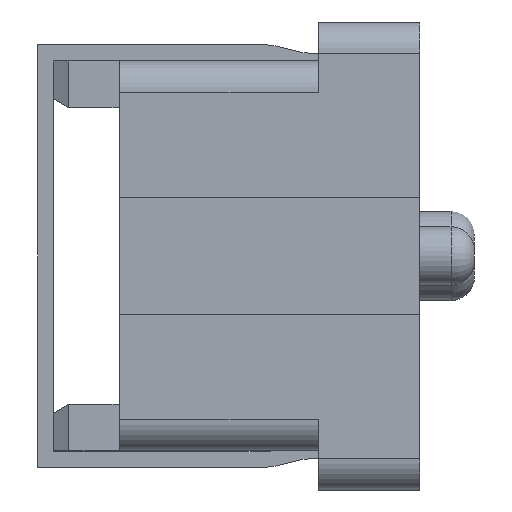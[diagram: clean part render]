
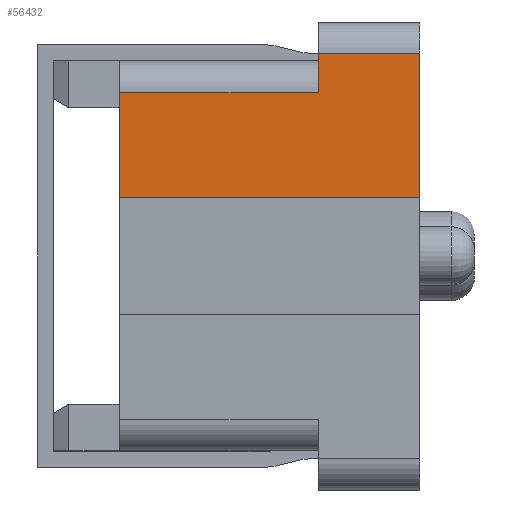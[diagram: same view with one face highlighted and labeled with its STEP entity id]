
A CAD part, left-side view. The second image highlights one B-rep face of the part: STEP entity #56432.
In plain terms, the highlighted planar face has unit normal (-1, 0, 0).
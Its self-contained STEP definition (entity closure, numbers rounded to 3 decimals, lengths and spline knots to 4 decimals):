
#1296 = DIRECTION ( 'NONE',  ( 0., 0., -1. ) ) ;
#3100 = DIRECTION ( 'NONE',  ( 0., 1., 0. ) ) ;
#8184 = VECTOR ( 'NONE', #3100, 1000. ) ;
#19076 = PLANE ( 'NONE',  #65063 ) ;
#22516 = EDGE_CURVE ( 'NONE', #46186, #249697, #65839, .T. ) ;
#32814 = DIRECTION ( 'NONE',  ( 0., 0., 1. ) ) ;
#34712 = VERTEX_POINT ( 'NONE', #91095 ) ;
#41793 = VECTOR ( 'NONE', #32814, 1000. ) ;
#46186 = VERTEX_POINT ( 'NONE', #151323 ) ;
#55476 = LINE ( 'NONE', #58206, #209634 ) ;
#56432 = ADVANCED_FACE ( 'NONE', ( #189709 ), #19076, .F. ) ;
#58206 = CARTESIAN_POINT ( 'NONE',  ( -10.8325, 2.9568, 2.1 ) ) ;
#61148 = CARTESIAN_POINT ( 'NONE',  ( -10.8325, -1.7432, 0.75 ) ) ;
#65063 = AXIS2_PLACEMENT_3D ( 'NONE', #84227, #192420, #149430 ) ;
#65839 = LINE ( 'NONE', #108863, #194614 ) ;
#67650 = VERTEX_POINT ( 'NONE', #158305 ) ;
#68069 = VERTEX_POINT ( 'NONE', #172644 ) ;
#68241 = CARTESIAN_POINT ( 'NONE',  ( -10.8325, 2.1068, 2.1 ) ) ;
#74128 = EDGE_CURVE ( 'NONE', #34712, #249697, #55476, .T. ) ;
#82708 = EDGE_LOOP ( 'NONE', ( #231504, #87135, #203853, #163057, #84453, #139437 ) ) ;
#83849 = VECTOR ( 'NONE', #1296, 1000. ) ;
#84227 = CARTESIAN_POINT ( 'NONE',  ( -10.8325, 2.9568, 3. ) ) ;
#84453 = ORIENTED_EDGE ( 'NONE', *, *, #153042, .F. ) ;
#86360 = LINE ( 'NONE', #128025, #8184 ) ;
#87135 = ORIENTED_EDGE ( 'NONE', *, *, #74128, .T. ) ;
#87297 = CARTESIAN_POINT ( 'NONE',  ( -10.8325, -1.7432, 3. ) ) ;
#91095 = CARTESIAN_POINT ( 'NONE',  ( -10.8325, -0.4432, 2.1 ) ) ;
#96648 = EDGE_CURVE ( 'NONE', #67650, #108320, #86360, .T. ) ;
#100057 = LINE ( 'NONE', #61148, #212588 ) ;
#108320 = VERTEX_POINT ( 'NONE', #240468 ) ;
#108863 = CARTESIAN_POINT ( 'NONE',  ( -10.8325, 2.1068, -3. ) ) ;
#110873 = LINE ( 'NONE', #87297, #83849 ) ;
#118827 = LINE ( 'NONE', #160453, #41793 ) ;
#128025 = CARTESIAN_POINT ( 'NONE',  ( -10.8325, -0.4432, 2.6 ) ) ;
#139437 = ORIENTED_EDGE ( 'NONE', *, *, #96648, .T. ) ;
#145039 = DIRECTION ( 'NONE',  ( 0., 0., 1. ) ) ;
#149430 = DIRECTION ( 'NONE',  ( 0., 1., 0. ) ) ;
#151323 = CARTESIAN_POINT ( 'NONE',  ( -10.8325, 2.1068, 0.75 ) ) ;
#153042 = EDGE_CURVE ( 'NONE', #67650, #68069, #110873, .T. ) ;
#158305 = CARTESIAN_POINT ( 'NONE',  ( -10.8325, -1.7432, 2.6 ) ) ;
#160453 = CARTESIAN_POINT ( 'NONE',  ( -10.8325, -0.4432, 2.5 ) ) ;
#163057 = ORIENTED_EDGE ( 'NONE', *, *, #192178, .F. ) ;
#172644 = CARTESIAN_POINT ( 'NONE',  ( -10.8325, -1.7432, 0.75 ) ) ;
#189709 = FACE_OUTER_BOUND ( 'NONE', #82708, .T. ) ;
#192178 = EDGE_CURVE ( 'NONE', #68069, #46186, #100057, .T. ) ;
#192420 = DIRECTION ( 'NONE',  ( 1., 0., 0. ) ) ;
#194614 = VECTOR ( 'NONE', #145039, 1000. ) ;
#203853 = ORIENTED_EDGE ( 'NONE', *, *, #22516, .F. ) ;
#206673 = DIRECTION ( 'NONE',  ( 0., 1., 0. ) ) ;
#209634 = VECTOR ( 'NONE', #206673, 1000. ) ;
#210984 = EDGE_CURVE ( 'NONE', #34712, #108320, #118827, .T. ) ;
#212588 = VECTOR ( 'NONE', #231794, 1000. ) ;
#231504 = ORIENTED_EDGE ( 'NONE', *, *, #210984, .F. ) ;
#231794 = DIRECTION ( 'NONE',  ( 0., 1., 0. ) ) ;
#240468 = CARTESIAN_POINT ( 'NONE',  ( -10.8325, -0.4432, 2.6 ) ) ;
#249697 = VERTEX_POINT ( 'NONE', #68241 ) ;
